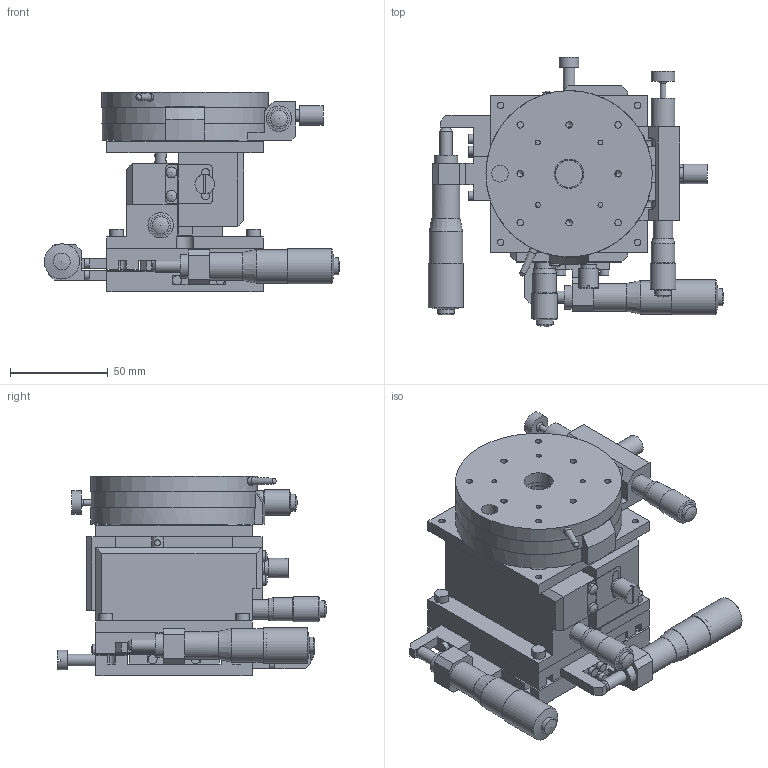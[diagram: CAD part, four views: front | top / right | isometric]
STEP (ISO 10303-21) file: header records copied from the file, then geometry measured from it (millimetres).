
FILE_DESCRIPTION( ( 'STEP AP203' ), '1' );
FILE_NAME( 'C:/3D-Trans/3D_B240-80CN+080905.step', '2008-09-05T01:11:06', ( ' ' ), ( ' ' ), 'XStep 1.0', ' ', ' ' );
FILE_SCHEMA( ( 'CONFIG_CONTROL_DESIGN' ) );
Length unit declared in the file: millimetre
Products named in the file (14): 1; 2; 3; 4; 5; 6; 7; 8; 9; 10; 11; 12; 13; 14
Bounding box: 150.98 x 137.65 x 102 mm (x, y, z)
Volume: 535284.6 mm3; surface area: 198236.8 mm2
Topology: 14 solids, 17 shells, 763 faces, 2031 edges, 1340 vertices
Faces by surface type: plane 442, cylinder 267, cone 34, sphere 19, torus 1
Full cylindrical faces by diameter (mm): 2 x14, 2.2 x2, 2.5 x8, 3 x13, 3.3 x40, 3.5 x2, 3.8 x4, 4 x4, 4.5 x4, 4.7 x8, 5 x12, 5.6 x2, 6 x6, 6.02 x1, 6.35 x4, 6.5 x2, 7 x4, 8 x11, 8.5 x3, 8.6 x4, 8.7 x1, 9 x2, 10 x10, 10.5 x2, 12 x10, 13 x2, 14 x4, 15 x4, 16.8 x2, 17.2 x2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
Entity records: 22469 total; most frequent: CARTESIAN_POINT 4220, DIRECTION 3704, ORIENTED_EDGE 3198, EDGE_CURVE 1599, AXIS2_PLACEMENT_3D 1358, EDGE_LOOP 1210, VERTEX_POINT 1191, LINE 988
